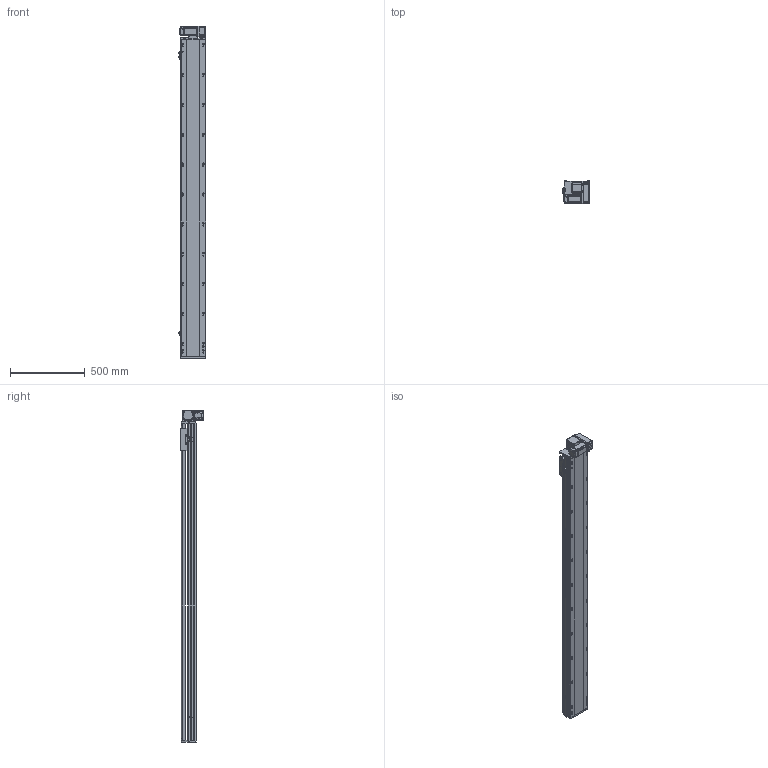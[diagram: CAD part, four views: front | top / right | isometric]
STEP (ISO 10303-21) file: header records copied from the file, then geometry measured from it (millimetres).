
FILE_DESCRIPTION (( 'STEP AP214' ), '1' );
FILE_NAME ('RTB17S-XX-1850-RM-M40-C4.STEP', '2025-12-11T08:23:46', ( '' ), ( '' ), 'SwSTEP 2.0', 'SolidWorks 2018', '' );
FILE_SCHEMA (( 'AUTOMOTIVE_DESIGN' ));
Length unit declared in the file: millimetre
Products named in the file (14): RTH13-BL-012覜茼え俋离^RTB17S-XX-XX-RM-M40-C4; RTB17S-L-004佪裝蹟譫蟀諉釱^RTB17S-XX-XX-RM-M40-C4; RTB14-L-018P^RTB17S-RM-々湍釱蚾饜-400W_RTB17S-XX-XX-RM-M40-C4; OMRON EE-SX672 传感器^RTB17S-XX-XX-RM-M40-C4; RTB14-L-008-M20--萇儂啣^RTB17S-RM-々湍釱蚾饜-400W_RTB17S-XX-XX-RM-M40-C4; RTB17S-XX-1850-RM-M40-C4; 400W侜督萇儂^RTB17S-XX-XX-RM-M40-C4; RTB14-L-005P--轴承塑胶压盖^RTB17S-RM-皮带座装配-400W_RTB17S-XX-XX-RM-M40-C4; RTB17-R-011菁釱^RTB17S-XX-XX-RM-M40-C4; RTB14-L-017P^RTB17S-RM-々湍釱蚾饜-400W_RTB17S-XX-XX-RM-M40-C4; RTB17S-L-014-T20--々湍釱^RTB17S-RM-々湍釱蚾饜-400W_RTB17S-XX-XX-RM-M40-C4; RTB17S-L-007奻裔^RTB17S-XX-XX-RM-M40-C4; RTB17S-L-001耜醱啣^RTB17S-XX-XX-RM-M40-C4; RTB17S-RM-々湍釱蚾饜-400W^RTB17S-XX-XX-RM-M40-C4
Assembly tree (16 placements, depth 3):
  RTB17S-XX-1850-RM-M40-C4
    RTB17-R-011菁釱^RTB17S-XX-XX-RM-M40-C4
    RTB17S-L-007奻裔^RTB17S-XX-XX-RM-M40-C4
    OMRON EE-SX672 传感器^RTB17S-XX-XX-RM-M40-C4  x3
    RTB17S-L-001耜醱啣^RTB17S-XX-XX-RM-M40-C4
    400W侜督萇儂^RTB17S-XX-XX-RM-M40-C4
    RTB17S-L-004佪裝蹟譫蟀諉釱^RTB17S-XX-XX-RM-M40-C4
    RTH13-BL-012覜茼え俋离^RTB17S-XX-XX-RM-M40-C4
    RTB17S-RM-々湍釱蚾饜-400W^RTB17S-XX-XX-RM-M40-C4
      RTB17S-L-014-T20--々湍釱^RTB17S-RM-々湍釱蚾饜-400W_RTB17S-XX-XX-RM-M40-C4
      RTB14-L-005P--轴承塑胶压盖^RTB17S-RM-皮带座装配-400W_RTB17S-XX-XX-RM-M40-C4
      RTB14-L-008-M20--萇儂啣^RTB17S-RM-々湍釱蚾饜-400W_RTB17S-XX-XX-RM-M40-C4
      RTB14-L-017P^RTB17S-RM-々湍釱蚾饜-400W_RTB17S-XX-XX-RM-M40-C4  x2
      RTB14-L-018P^RTB17S-RM-々湍釱蚾饜-400W_RTB17S-XX-XX-RM-M40-C4
Bounding box: 183.5 x 156.5 x 2222.5 mm (x, y, z)
Volume: 19300792.9 mm3; surface area: 2255761.1 mm2
Topology: 15 solids, 15 shells, 2285 faces, 6357 edges, 4149 vertices
Faces by surface type: plane 1078, cylinder 759, bspline 301, cone 139, torus 8
Entity records: 66473 total; most frequent: CARTESIAN_POINT 18762, ORIENTED_EDGE 9558, DIRECTION 8846, EDGE_CURVE 4779, VERTEX_POINT 3137, AXIS2_PLACEMENT_3D 3067, LINE 2712, VECTOR 2712
